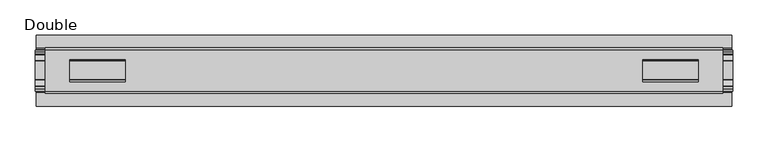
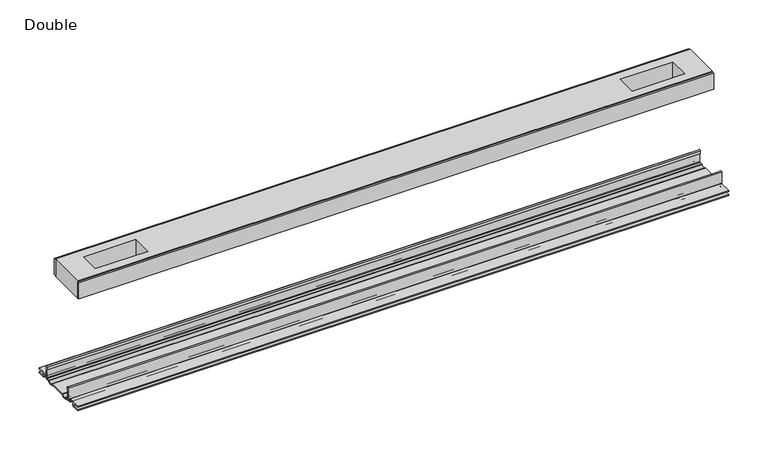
"""IFC4 building model written with IfcOpenShell, lengths in millimetres: proxy geometry, Frame-Teknion-FHCRA-Horizontal_Rail-R2022 : Double."""

from ifc_helpers import new_model, si_unit, point, frame, frame_2d, origin, place, context, project, spatial, polyline, circle_curve, trimmed, segment, composite_curve, outline, extrude, source, transform, mapped, element, save


def double_523658e2(model_context):
    return source(origin(), model_context, "Body", "SweptSolid", [
        extrude(outline(polyline([(479.3615091, -29.0068005), (479.3615091, -32.1817997), (-479.3615091, -32.1817997), (-479.3615091, -29.0068005), (479.3615091, -29.0068005)])), frame((0.0, 0.0, 149.8401622), z_axis=(0.0, 0.0, 1.0), x_axis=(1.0, 0.0, 0.0)), (0.0, 0.0, 1.0), 25.3999939),
        extrude(outline(polyline([(479.3615091, 32.1817997), (479.3615091, 29.0068005), (-479.3615091, 29.0068005), (-479.3615091, 32.1817997), (479.3615091, 32.1817997)])), frame((0.0, 0.0, 149.8401622), z_axis=(0.0, 0.0, 1.0), x_axis=(1.0, 0.0, 0.0)), (0.0, 0.0, 1.0), 25.3999939),
        extrude(outline(polyline([(479.3615091, 29.0068005), (479.3615091, -29.0068005), (-479.3615091, -29.0068005), (-479.3615091, 29.0068005), (479.3615091, 29.0068005)]), holes=[polyline([(444.9444965, 15.1130038), (365.8996847, 15.1130038), (365.8996847, -15.875003), (444.9444965, -15.875003), (444.9444965, 15.1130038)]), polyline([(-444.9444965, 15.1130038), (-444.9444965, -15.875003), (-365.8996847, -15.875003), (-365.8996847, 15.1130038), (-444.9444965, 15.1130038)])]), frame((0.0, 0.0, 148.4185847), z_axis=(0.0, 0.0, 1.0), x_axis=(1.0, 0.0, 0.0)), (0.0, 0.0, 1.0), 27.9999988),
        extrude(outline(composite_curve([segment(polyline([(-28.8162961, -7.7516037), (-28.8162961, 9.8607558)]), True, "CONTINUOUS"), segment(trimmed(circle_curve(frame_2d((-27.5970982, 9.8607558)), 1.2191979), [point((-28.8162961, 9.8607558))], [point((-26.3779003, 9.8607558))], False, "CARTESIAN"), True, "CONTINUOUS"), segment(polyline([(-26.3779003, 9.8607558), (-26.3779003, 5.9999563), (-27.6580769, 5.9999563), (-27.6580769, -7.7516037)]), True, "CONTINUOUS"), segment(trimmed(circle_curve(frame_2d((-26.6420561, -7.7516037)), 1.0160208), [point((-27.6580769, -7.7516037))], [point((-26.6485732, -8.7676036))], True, "CARTESIAN"), True, "CONTINUOUS"), segment(polyline([(-26.6485732, -8.7676036), (-22.7056226, -8.7676036), (-21.7922609, -8.968753)]), True, "CONTINUOUS"), segment(trimmed(circle_curve(frame_2d((-17.7673021, -6.1259382)), 4.9276657), [point((-21.7922609, -8.968753))], [point((-13.7423434, -8.968753))], True, "CARTESIAN"), True, "CONTINUOUS"), segment(polyline([(-13.7423434, -8.968753), (-12.8289726, -8.7676036), (13.2099722, -8.7676036), (14.123343, -8.968753)]), True, "CONTINUOUS"), segment(trimmed(circle_curve(frame_2d((18.1483018, -6.1259382)), 4.9276657), [point((14.123343, -8.968753))], [point((22.1732605, -8.968753))], True, "CARTESIAN"), True, "CONTINUOUS"), segment(polyline([(22.1732605, -8.968753), (23.0866222, -8.7676036), (27.0295728, -8.7676036)]), True, "CONTINUOUS"), segment(trimmed(circle_curve(frame_2d((27.0230557, -7.7516037)), 1.0160208), [point((27.0295728, -8.7676036))], [point((28.0390765, -7.7516037))], True, "CARTESIAN"), True, "CONTINUOUS"), segment(polyline([(28.0390765, -7.7516037), (28.0390765, 5.9999563), (26.7588999, 5.9999563), (26.7588999, 9.8607558)]), True, "CONTINUOUS"), segment(trimmed(circle_curve(frame_2d((27.9780978, 9.8607558)), 1.2191979), [point((26.7588999, 9.8607558))], [point((29.1972958, 9.8607558))], False, "CARTESIAN"), True, "CONTINUOUS"), segment(polyline([(29.1972958, 9.8607558), (29.1972958, -7.7516037)]), True, "CONTINUOUS"), segment(trimmed(circle_curve(frame_2d((27.0230557, -7.7516037)), 2.17424), [point((29.1972958, -7.7516037))], [point((27.0230557, -9.9258438))], False, "CARTESIAN"), True, "CONTINUOUS"), segment(polyline([(27.0230557, -9.9258438), (22.732069, -9.9258438)]), True, "CONTINUOUS"), segment(trimmed(circle_curve(frame_2d((18.1516545, -6.4800016)), 5.7318431), [point((22.732069, -9.9258438))], [point((13.57124, -9.9258438))], False, "CARTESIAN"), True, "CONTINUOUS"), segment(polyline([(13.57124, -9.9258438), (-13.1902404, -9.9258438)]), True, "CONTINUOUS"), segment(trimmed(circle_curve(frame_2d((-17.7706549, -6.4800016)), 5.7318431), [point((-13.1902404, -9.9258438))], [point((-22.3510694, -9.9258438))], False, "CARTESIAN"), True, "CONTINUOUS"), segment(polyline([(-22.3510694, -9.9258438), (-26.6420561, -9.9258438)]), True, "CONTINUOUS"), segment(trimmed(circle_curve(frame_2d((-26.6420561, -7.7516037)), 2.17424), [point((-26.6420561, -9.9258438))], [point((-28.8162961, -7.7516037))], False, "CARTESIAN"), True, "CONTINUOUS")], self_intersect=False)), frame((-493.4204, 0.0, 0.0), z_axis=(1.0, 0.0, 0.0), x_axis=(0.0, 1.0, 0.0)), (0.0, 0.0, 1.0), 986.8408),
        extrude(outline(composite_curve([segment(polyline([(-50.2668422, -13.9898438), (-50.2240211, -12.3388438), (-39.7827507, -12.3388438), (-39.7827507, -7.766844), (-50.2240211, -7.766844), (-50.2668422, -6.1158439), (-31.1784975, -6.1158439)]), True, "CONTINUOUS"), segment(trimmed(circle_curve(frame_2d((-31.1784975, -7.6398436)), 1.5239997), [point((-31.1784975, -6.1158439))], [point((-29.6544978, -7.6398436))], False, "CARTESIAN"), True, "CONTINUOUS"), segment(polyline([(-29.6544978, -7.6398436), (-29.6544978, -9.9258438), (-23.1058344, -9.9258438)]), True, "CONTINUOUS"), segment(trimmed(circle_curve(frame_2d((-17.7673021, -5.2268471)), 7.1119966), [point((-23.1058344, -9.9258438))], [point((-12.4287699, -9.9258438))], True, "CARTESIAN"), True, "CONTINUOUS"), segment(polyline([(-12.4287699, -9.9258438), (12.8097695, -9.9258438)]), True, "CONTINUOUS"), segment(trimmed(circle_curve(frame_2d((18.1483018, -5.2268471)), 7.1119966), [point((12.8097695, -9.9258438))], [point((23.486834, -9.9258438))], True, "CARTESIAN"), True, "CONTINUOUS"), segment(polyline([(23.486834, -9.9258438), (30.0354975, -9.9258438), (30.0354975, -7.7656583)]), True, "CONTINUOUS"), segment(trimmed(circle_curve(frame_2d((31.6864982, -7.7656583)), 1.6510007), [point((30.0354975, -7.7656583))], [point((31.6239218, -6.1158439))], False, "CARTESIAN"), True, "CONTINUOUS"), segment(polyline([(31.6239218, -6.1158439), (50.00625, -6.1158439), (50.00625, -7.766844), (40.1637503, -7.766844), (40.1637503, -12.3388438), (50.00625, -12.3388438), (50.00625, -13.9898438), (40.0367518, -13.9898438)]), True, "CONTINUOUS"), segment(trimmed(circle_curve(frame_2d((40.0367518, -12.4658438)), 1.524), [point((40.0367518, -13.9898438))], [point((38.5127519, -12.4658438))], False, "CARTESIAN"), True, "CONTINUOUS"), segment(polyline([(38.5127519, -12.4658438), (38.5127519, -7.766844), (31.686497, -7.766844), (31.686497, -10.0528438)]), True, "CONTINUOUS"), segment(trimmed(circle_curve(frame_2d((30.1624971, -10.0528438)), 1.524), [point((31.686497, -10.0528438))], [point((30.1624971, -11.5768438))], False, "CARTESIAN"), True, "CONTINUOUS"), segment(polyline([(30.1624971, -11.5768438), (23.6563549, -11.5768438)]), True, "CONTINUOUS"), segment(trimmed(circle_curve(frame_2d((18.1483018, -6.4968436)), 7.4930002), [point((23.6563549, -11.5768438))], [point((12.8904968, -11.8354331))], False, "CARTESIAN"), True, "CONTINUOUS"), segment(polyline([(12.8904968, -11.8354331), (-12.5094972, -11.8354331)]), True, "CONTINUOUS"), segment(trimmed(circle_curve(frame_2d((-17.7673021, -6.4968436)), 7.4930002), [point((-12.5094972, -11.8354331))], [point((-23.2753553, -11.5768438))], False, "CARTESIAN"), True, "CONTINUOUS"), segment(polyline([(-23.2753553, -11.5768438), (-29.7814974, -11.5768438)]), True, "CONTINUOUS"), segment(trimmed(circle_curve(frame_2d((-29.7814974, -10.0528438)), 1.524), [point((-29.7814974, -11.5768438))], [point((-31.3054974, -10.0528438))], False, "CARTESIAN"), True, "CONTINUOUS"), segment(polyline([(-31.3054974, -10.0528438), (-31.3054974, -7.766844), (-38.1317522, -7.766844), (-38.1317522, -12.4658438)]), True, "CONTINUOUS"), segment(trimmed(circle_curve(frame_2d((-39.6557522, -12.4658438)), 1.524), [point((-38.1317522, -12.4658438))], [point((-39.6557522, -13.9898438))], False, "CARTESIAN"), True, "CONTINUOUS"), segment(polyline([(-39.6557522, -13.9898438), (-50.2668422, -13.9898438)]), True, "CONTINUOUS")], self_intersect=False)), frame((-491.7694, 0.0, 0.0), z_axis=(1.0, 0.0, 0.0), x_axis=(0.0, 1.0, 0.0)), (0.0, 0.0, 1.0), 983.5388),
    ])


if __name__ == "__main__":
    model = new_model("IFC4")
    model_context = context("Model", 3, world=origin())
    ifc_project = project(units=[si_unit("LENGTHUNIT", "METRE", prefix="MILLI")], contexts=[model_context])
    site = spatial("IfcSite", under=ifc_project)
    building = spatial("IfcBuilding", under=site)
    placement = place(None, origin())
    double_shape = double_523658e2(model_context)
    element("IfcBuildingElementProxy", 1, Name="Frame-Teknion-FHCRA-Horizontal_Rail-R2022 : Double", ObjectType="Frame-Teknion-FHCRA-Horizontal_Rail-R2022 : Double", at=placement, inside=building, context=model_context, shape_type="MappedRepresentation", body=[
        mapped(double_shape, transform((0.0, 0.0, 0.0), x_axis=(1.0, 0.0, 0.0), y_axis=(0.0, 1.0, 0.0), z_axis=(0.0, 0.0, 1.0))),
    ])
    save(model, "model.ifc")
